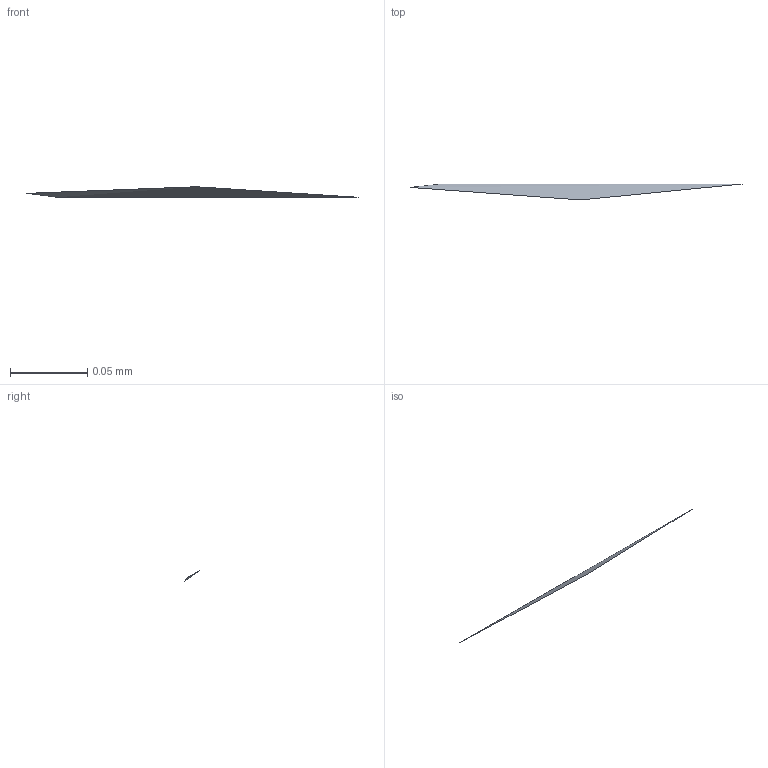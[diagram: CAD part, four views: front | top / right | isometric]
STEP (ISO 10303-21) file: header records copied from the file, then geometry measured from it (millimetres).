
FILE_DESCRIPTION(/* description */ ('STEP AP242 Edition 2','CAx-IF Rec.Pracs.---Representation and Presentation of Product Manufacturing Information (PMI)---4.0---2014-10-13','CAx-IF Rec.Pracs.---3D Tessellated Geometry---0.4---2014-09-14','2;1','CAx-IF Rec.Pracs.---User Defined Attributes---1.5---2016-08-15'),/* implementation_level */ '2;1');
FILE_NAME(/* name */ 'Assembly 1 - Part 58',/* time_stamp */ '2026-03-29T21:14:58Z',/* author */ (''),/* organization */ (''),/* preprocessor_version */ 'ST-DEVELOPER v20',/* originating_system */ 'ONSHAPE BY PTC INC, 1.212',/* authorisation */ ' ');
FILE_SCHEMA (('AP242_MANAGED_MODEL_BASED_3D_ENGINEERING_MIM_LF { 1 0 10303 442 3 1 4 }'));
Length unit declared in the file: metre
Products named in the file (1): Part 58
Bounding box: 0.21 x 0.01 x 0.01 mm (x, y, z)
Surface area: 0 mm2 (no closed solid volume)
Topology: 0 solids, 1 shells, 1 faces, 0 edges, 0 vertices
Faces by surface type: other 1
Entity records: 31 total; most frequent: DIRECTION 2, SHAPE_REPRESENTATION_RELATIONSHIP 1, TESSELLATED_SHAPE_REPRESENTATION 1, STYLED_ITEM 1, PRESENTATION_STYLE_ASSIGNMENT 1, SURFACE_STYLE_USAGE 1, SURFACE_SIDE_STYLE 1, SURFACE_STYLE_FILL_AREA 1
